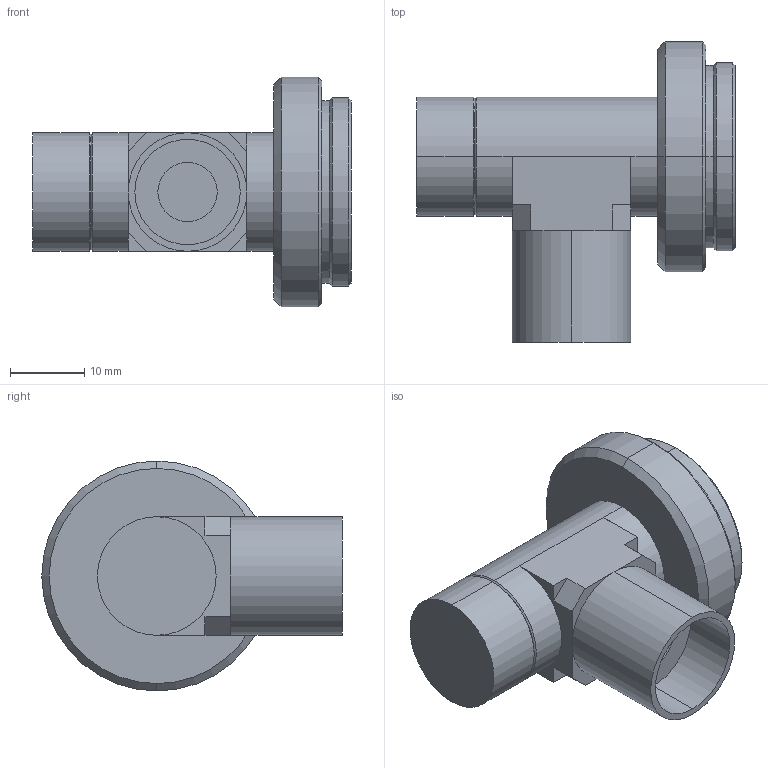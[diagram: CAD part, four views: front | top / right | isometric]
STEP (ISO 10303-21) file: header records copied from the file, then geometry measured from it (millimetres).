
FILE_DESCRIPTION (( 'STEP AP203' ), '1' );
FILE_NAME ('VS-TC2-40CO.STEP', '2017-03-17T06:25:28', ( 'miura_vst' ), ( '' ), 'SwSTEP 2.0', 'SolidWorks 2017', '' );
FILE_SCHEMA (( 'CONFIG_CONTROL_DESIGN' ));
Length unit declared in the file: millimetre
Products named in the file (1): VS-TC2-40CO
Bounding box: 43 x 40.5 x 31 mm (x, y, z)
Volume: 15720.6 mm3; surface area: 5588.2 mm2
Topology: 1 solids, 1 shells, 52 faces, 112 edges, 66 vertices
Faces by surface type: plane 23, cylinder 17, cone 12
Entity records: 1469 total; most frequent: DIRECTION 262, CARTESIAN_POINT 231, ORIENTED_EDGE 224, EDGE_CURVE 112, AXIS2_PLACEMENT_3D 97, VECTOR 68, LINE 68, VERTEX_POINT 66
